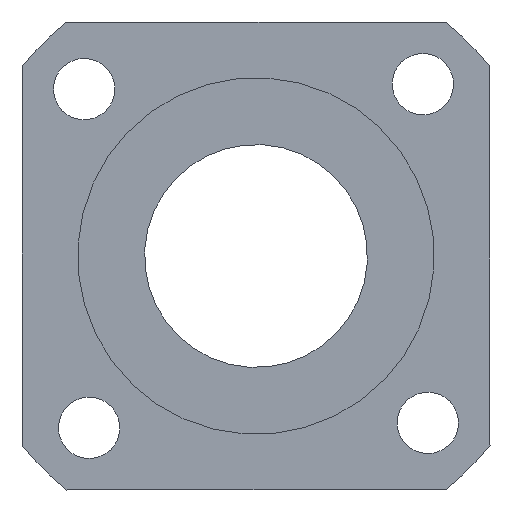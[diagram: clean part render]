
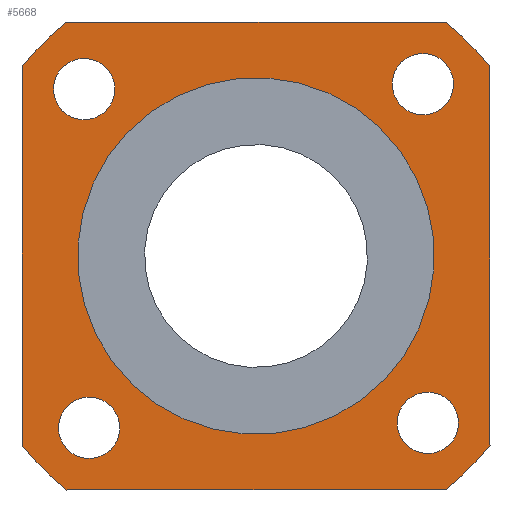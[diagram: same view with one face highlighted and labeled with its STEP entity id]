
A CAD part, left-side view. The second image highlights one B-rep face of the part: STEP entity #5668.
In plain terms, the highlighted planar face has unit normal (-1, 0, 0).
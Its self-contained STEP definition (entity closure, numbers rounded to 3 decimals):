
#106=CIRCLE('',#6014,27.);
#107=CIRCLE('',#6016,27.);
#108=CIRCLE('',#6018,27.);
#118=CIRCLE('',#6033,16.);
#120=CIRCLE('',#6038,27.);
#121=CIRCLE('',#6039,2.75);
#122=CIRCLE('',#6040,2.75);
#123=CIRCLE('',#6041,2.75);
#124=CIRCLE('',#6042,2.75);
#527=ORIENTED_EDGE('',*,*,#2157,.T.);
#528=ORIENTED_EDGE('',*,*,#2140,.F.);
#529=ORIENTED_EDGE('',*,*,#2158,.T.);
#530=ORIENTED_EDGE('',*,*,#2143,.F.);
#531=ORIENTED_EDGE('',*,*,#2159,.T.);
#532=ORIENTED_EDGE('',*,*,#2160,.F.);
#533=ORIENTED_EDGE('',*,*,#2161,.T.);
#534=ORIENTED_EDGE('',*,*,#2138,.F.);
#535=ORIENTED_EDGE('',*,*,#2162,.T.);
#536=ORIENTED_EDGE('',*,*,#2163,.T.);
#537=ORIENTED_EDGE('',*,*,#2164,.T.);
#538=ORIENTED_EDGE('',*,*,#2165,.T.);
#539=ORIENTED_EDGE('',*,*,#2155,.T.);
#2138=EDGE_CURVE('',#2955,#2956,#106,.T.);
#2140=EDGE_CURVE('',#2957,#2958,#107,.T.);
#2143=EDGE_CURVE('',#2959,#2960,#108,.T.);
#2155=EDGE_CURVE('',#2970,#2970,#118,.T.);
#2157=EDGE_CURVE('',#2955,#2958,#3456,.T.);
#2158=EDGE_CURVE('',#2957,#2960,#3457,.T.);
#2159=EDGE_CURVE('',#2959,#2972,#3458,.T.);
#2160=EDGE_CURVE('',#2973,#2972,#120,.T.);
#2161=EDGE_CURVE('',#2973,#2956,#3459,.T.);
#2162=EDGE_CURVE('',#2974,#2974,#121,.T.);
#2163=EDGE_CURVE('',#2975,#2975,#122,.T.);
#2164=EDGE_CURVE('',#2976,#2976,#123,.T.);
#2165=EDGE_CURVE('',#2977,#2977,#124,.T.);
#2955=VERTEX_POINT('',#8956);
#2956=VERTEX_POINT('',#8958);
#2957=VERTEX_POINT('',#8962);
#2958=VERTEX_POINT('',#8963);
#2959=VERTEX_POINT('',#8968);
#2960=VERTEX_POINT('',#8969);
#2970=VERTEX_POINT('',#8996);
#2972=VERTEX_POINT('',#9005);
#2973=VERTEX_POINT('',#9007);
#2974=VERTEX_POINT('',#9010);
#2975=VERTEX_POINT('',#9012);
#2976=VERTEX_POINT('',#9014);
#2977=VERTEX_POINT('',#9016);
#3456=LINE('',#9002,#4124);
#3457=LINE('',#9003,#4125);
#3458=LINE('',#9004,#4126);
#3459=LINE('',#9008,#4127);
#4124=VECTOR('',#6584,1000.);
#4125=VECTOR('',#6585,1000.);
#4126=VECTOR('',#6586,1000.);
#4127=VECTOR('',#6589,1000.);
#4650=EDGE_LOOP('',(#527,#528,#529,#530,#531,#532,#533,#534));
#4651=EDGE_LOOP('',(#535));
#4652=EDGE_LOOP('',(#536));
#4653=EDGE_LOOP('',(#537));
#4654=EDGE_LOOP('',(#538));
#4655=EDGE_LOOP('',(#539));
#5056=FACE_BOUND('',#4650,.T.);
#5057=FACE_BOUND('',#4651,.T.);
#5058=FACE_BOUND('',#4652,.T.);
#5059=FACE_BOUND('',#4653,.T.);
#5060=FACE_BOUND('',#4654,.T.);
#5061=FACE_BOUND('',#4655,.T.);
#5407=PLANE('',#6037);
#5668=ADVANCED_FACE('',(#5056,#5057,#5058,#5059,#5060,#5061),#5407,.F.);
#6014=AXIS2_PLACEMENT_3D('',#8957,#6531,#6532);
#6016=AXIS2_PLACEMENT_3D('',#8961,#6536,#6537);
#6018=AXIS2_PLACEMENT_3D('',#8967,#6542,#6543);
#6033=AXIS2_PLACEMENT_3D('',#8995,#6574,#6575);
#6037=AXIS2_PLACEMENT_3D('',#9001,#6582,#6583);
#6038=AXIS2_PLACEMENT_3D('',#9006,#6587,#6588);
#6039=AXIS2_PLACEMENT_3D('',#9009,#6590,#6591);
#6040=AXIS2_PLACEMENT_3D('',#9011,#6592,#6593);
#6041=AXIS2_PLACEMENT_3D('',#9013,#6594,#6595);
#6042=AXIS2_PLACEMENT_3D('',#9015,#6596,#6597);
#6531=DIRECTION('',(1.,0.,0.));
#6532=DIRECTION('',(0.,0.697,-0.717));
#6536=DIRECTION('',(1.,0.,0.));
#6537=DIRECTION('',(0.,0.697,-0.717));
#6542=DIRECTION('',(1.,0.,0.));
#6543=DIRECTION('',(0.,0.697,-0.717));
#6574=DIRECTION('',(1.,0.,0.));
#6575=DIRECTION('',(0.,0.697,-0.717));
#6582=DIRECTION('',(1.,0.,0.));
#6583=DIRECTION('',(0.,0.697,-0.717));
#6584=DIRECTION('',(0.,1.,0.));
#6585=DIRECTION('',(0.,0.,-1.));
#6586=DIRECTION('',(0.,-1.,0.));
#6587=DIRECTION('',(1.,0.,0.));
#6588=DIRECTION('',(0.,0.697,-0.717));
#6589=DIRECTION('',(0.,0.,1.));
#6590=DIRECTION('',(1.,0.,0.));
#6591=DIRECTION('',(0.,0.697,-0.717));
#6592=DIRECTION('',(1.,0.,0.));
#6593=DIRECTION('',(0.,0.697,-0.717));
#6594=DIRECTION('',(1.,0.,0.));
#6595=DIRECTION('',(0.,0.697,-0.717));
#6596=DIRECTION('',(1.,0.,0.));
#6597=DIRECTION('',(0.,0.697,-0.717));
#8956=CARTESIAN_POINT('',(32.,-16.97,21.));
#8957=CARTESIAN_POINT('',(32.,0.,0.));
#8958=CARTESIAN_POINT('',(32.,-21.,16.971));
#8961=CARTESIAN_POINT('',(32.,0.,0.));
#8962=CARTESIAN_POINT('',(32.,21.,16.97));
#8963=CARTESIAN_POINT('',(32.,16.971,21.));
#8967=CARTESIAN_POINT('',(32.,0.,0.));
#8968=CARTESIAN_POINT('',(32.,16.97,-21.));
#8969=CARTESIAN_POINT('',(32.,21.,-16.971));
#8995=CARTESIAN_POINT('',(32.,0.,0.));
#8996=CARTESIAN_POINT('',(32.,11.149,-11.476));
#9001=CARTESIAN_POINT('',(32.,0.,0.));
#9002=CARTESIAN_POINT('',(32.,21.,21.));
#9003=CARTESIAN_POINT('',(32.,21.,-21.));
#9004=CARTESIAN_POINT('',(32.,-21.,-21.));
#9005=CARTESIAN_POINT('',(32.,-16.971,-21.));
#9006=CARTESIAN_POINT('',(32.,0.,0.));
#9007=CARTESIAN_POINT('',(32.,-21.,-16.97));
#9008=CARTESIAN_POINT('',(32.,-21.,21.));
#9009=CARTESIAN_POINT('',(32.,14.981,-15.421));
#9010=CARTESIAN_POINT('',(32.,16.897,-17.394));
#9011=CARTESIAN_POINT('',(32.,-15.421,-14.981));
#9012=CARTESIAN_POINT('',(32.,-13.505,-16.953));
#9013=CARTESIAN_POINT('',(32.,-14.981,15.421));
#9014=CARTESIAN_POINT('',(32.,-13.065,13.449));
#9015=CARTESIAN_POINT('',(32.,15.421,14.981));
#9016=CARTESIAN_POINT('',(32.,17.338,13.008));
